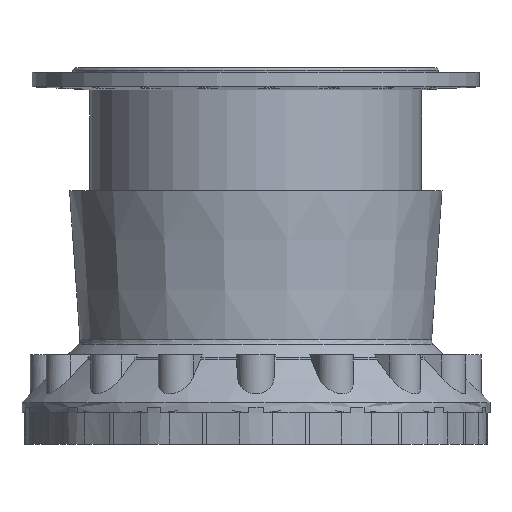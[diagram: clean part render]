
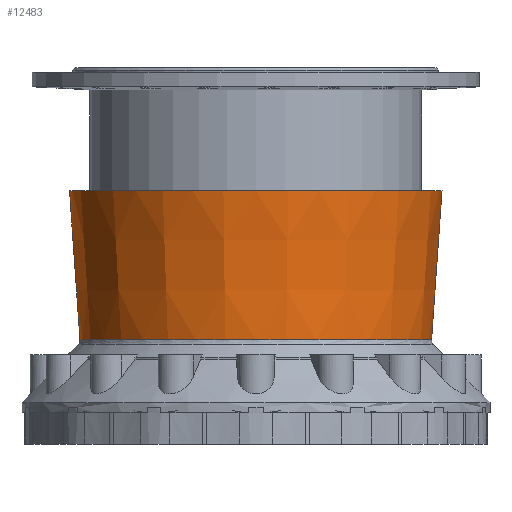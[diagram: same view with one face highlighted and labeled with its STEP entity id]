
A CAD part, front view. The second image highlights one B-rep face of the part: STEP entity #12483.
In plain terms, the highlighted conical face has half-angle 4 degrees and reference radius 297.227 mm.
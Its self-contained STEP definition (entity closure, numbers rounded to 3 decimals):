
#767 = EDGE_LOOP ( 'NONE', ( #993 ) ) ;
#842 = EDGE_LOOP ( 'NONE', ( #994 ) ) ;
#993 = ORIENTED_EDGE ( 'NONE', *, *, #2854, .T. ) ;
#994 = ORIENTED_EDGE ( 'NONE', *, *, #2873, .F. ) ;
#2027 = AXIS2_PLACEMENT_3D ( 'NONE', #13637, #13638, #13635 ) ;
#2854 = EDGE_CURVE ( 'NONE', #14594, #14594, #3380, .T. ) ;
#2873 = EDGE_CURVE ( 'NONE', #14595, #14595, #3376, .T. ) ;
#3376 = CIRCLE ( 'NONE', #11543, 306.122 ) ;
#3380 = CIRCLE ( 'NONE', #11534, 288.978 ) ;
#4492 = FACE_BOUND ( 'NONE', #767, .T. ) ;
#4496 = FACE_OUTER_BOUND ( 'NONE', #842, .T. ) ;
#4500 = CONICAL_SURFACE ( 'NONE', #2027, 297.227, 0.07 ) ;
#7566 = CARTESIAN_POINT ( 'NONE',  ( 0., 0., -117.962 ) ) ;
#7567 = DIRECTION ( 'NONE',  ( 0., 0., 1. ) ) ;
#7568 = DIRECTION ( 'NONE',  ( 1., 0., 0. ) ) ;
#7632 = CARTESIAN_POINT ( 'NONE',  ( 0., 0., 127.2 ) ) ;
#7633 = DIRECTION ( 'NONE',  ( 0., 0., 1. ) ) ;
#7634 = DIRECTION ( 'NONE',  ( 1., 0., 0. ) ) ;
#8877 = CARTESIAN_POINT ( 'NONE',  ( 306.122, 0., 127.2 ) ) ;
#8879 = CARTESIAN_POINT ( 'NONE',  ( 288.978, 0., -117.962 ) ) ;
#11534 = AXIS2_PLACEMENT_3D ( 'NONE', #7566, #7567, #7568 ) ;
#11543 = AXIS2_PLACEMENT_3D ( 'NONE', #7632, #7633, #7634 ) ;
#12483 = ADVANCED_FACE ( 'NONE', ( #4492, #4496 ), #4500, .T. ) ;
#13635 = DIRECTION ( 'NONE',  ( 1., 0., 0. ) ) ;
#13637 = CARTESIAN_POINT ( 'NONE',  ( 0., 0., 0. ) ) ;
#13638 = DIRECTION ( 'NONE',  ( 0., 0., 1. ) ) ;
#14594 = VERTEX_POINT ( 'NONE', #8879 ) ;
#14595 = VERTEX_POINT ( 'NONE', #8877 ) ;
